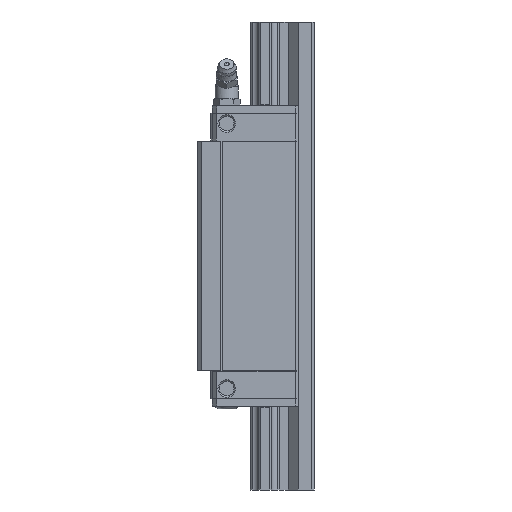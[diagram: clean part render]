
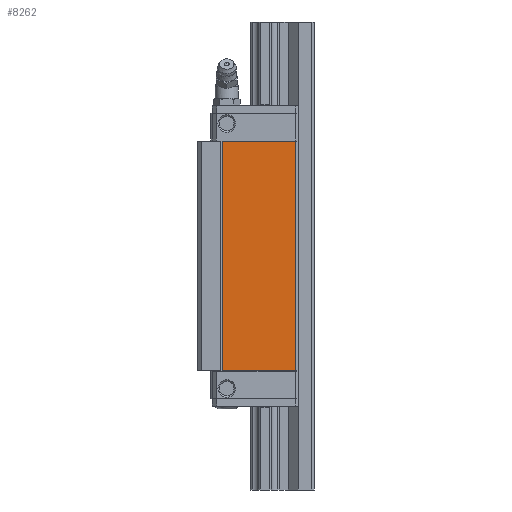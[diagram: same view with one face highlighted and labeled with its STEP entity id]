
A CAD part, left-side view. The second image highlights one B-rep face of the part: STEP entity #8262.
In plain terms, the highlighted planar face has unit normal (-1, 0, 0).
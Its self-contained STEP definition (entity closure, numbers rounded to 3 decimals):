
#8262=ADVANCED_FACE('',(#9837),#9214,.F.);
#9214=PLANE('',#24251);
#9837=FACE_OUTER_BOUND('',#10758,.T.);
#10758=EDGE_LOOP('',(#12330,#12331,#12332,#12333));
#12330=ORIENTED_EDGE('',*,*,#18775,.F.);
#12331=ORIENTED_EDGE('',*,*,#18644,.F.);
#12332=ORIENTED_EDGE('',*,*,#18774,.T.);
#12333=ORIENTED_EDGE('',*,*,#18776,.T.);
#16938=VERTEX_POINT('',#29867);
#16939=VERTEX_POINT('',#29869);
#17049=VERTEX_POINT('',#30241);
#17050=VERTEX_POINT('',#30245);
#18644=EDGE_CURVE('',#16938,#16939,#21089,.T.);
#18774=EDGE_CURVE('',#16938,#17049,#21194,.T.);
#18775=EDGE_CURVE('',#16939,#17050,#21195,.T.);
#18776=EDGE_CURVE('',#17049,#17050,#21196,.T.);
#21089=LINE('',#29868,#22623);
#21194=LINE('',#30242,#22728);
#21195=LINE('',#30244,#22729);
#21196=LINE('',#30246,#22730);
#22623=VECTOR('',#25740,1.);
#22728=VECTOR('',#25905,1.);
#22729=VECTOR('',#25908,1.);
#22730=VECTOR('',#25909,1.);
#24251=AXIS2_PLACEMENT_3D('',#30247,#25910,#25911);
#25740=DIRECTION('',(0.,-1.,0.));
#25905=DIRECTION('',(0.,0.,-1.));
#25908=DIRECTION('',(0.,0.,-1.));
#25909=DIRECTION('',(0.,-1.,0.));
#25910=DIRECTION('',(1.,0.,0.));
#25911=DIRECTION('',(0.,0.,-1.));
#29867=CARTESIAN_POINT('',(-23.5,31.5,-40.7));
#29868=CARTESIAN_POINT('',(-23.5,31.5,-40.7));
#29869=CARTESIAN_POINT('',(-23.5,6.5,-40.7));
#30241=CARTESIAN_POINT('',(-23.5,31.5,-119.3));
#30242=CARTESIAN_POINT('',(-23.5,31.5,-40.7));
#30244=CARTESIAN_POINT('',(-23.5,6.5,-40.7));
#30245=CARTESIAN_POINT('',(-23.5,6.5,-119.3));
#30246=CARTESIAN_POINT('',(-23.5,31.5,-119.3));
#30247=CARTESIAN_POINT('',(-23.5,5.5,-128.8));
